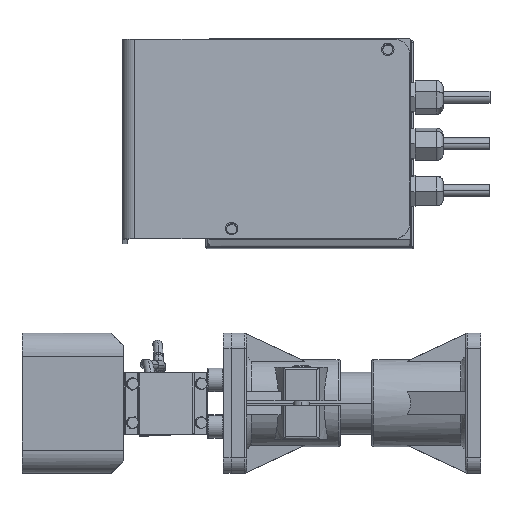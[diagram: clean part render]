
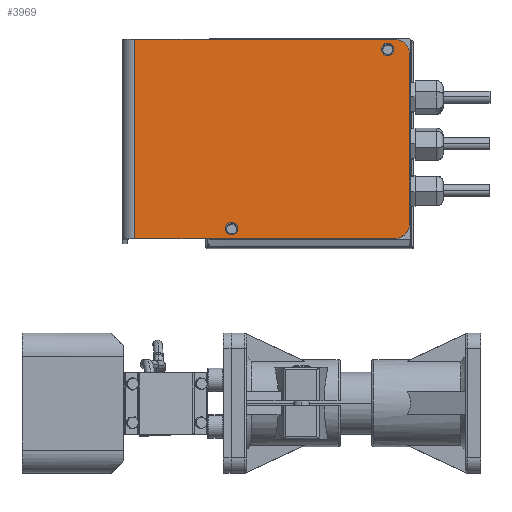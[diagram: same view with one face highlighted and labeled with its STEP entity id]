
A CAD part, left-side view. The second image highlights one B-rep face of the part: STEP entity #3969.
In plain terms, the highlighted planar face has unit normal (-0.999, 0, 0.042) as drawn and (0, 0, -1) by its records, which use the part's own axes.
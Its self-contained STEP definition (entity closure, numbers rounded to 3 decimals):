
#42 = CIRCLE ( 'NONE', #7114, 4. ) ;
#167 = DIRECTION ( 'NONE',  ( 0., 0., 1. ) ) ;
#2060 = DIRECTION ( 'NONE',  ( 0., 0., 1. ) ) ;
#2285 = CARTESIAN_POINT ( 'NONE',  ( -61.5, -78., -3. ) ) ;
#2490 = ORIENTED_EDGE ( 'NONE', *, *, #27201, .F. ) ;
#2627 = CIRCLE ( 'NONE', #23251, 10. ) ;
#2758 = EDGE_LOOP ( 'NONE', ( #25423, #35628, #2490, #36137, #34594, #35360 ) ) ;
#3145 = CARTESIAN_POINT ( 'NONE',  ( 61.5, 22., -3. ) ) ;
#3187 = VERTEX_POINT ( 'NONE', #19292 ) ;
#3898 = CARTESIAN_POINT ( 'NONE',  ( -54., -82., -3. ) ) ;
#3969 = ADVANCED_FACE ( 'NONE', ( #14086, #23594, #26838 ), #11081, .F. ) ;
#4466 = CARTESIAN_POINT ( 'NONE',  ( -64., 84., -3. ) ) ;
#5340 = EDGE_CURVE ( 'NONE', #31559, #37880, #5998, .T. ) ;
#5343 = AXIS2_PLACEMENT_3D ( 'NONE', #14158, #2060, #8314 ) ;
#5356 = CARTESIAN_POINT ( 'NONE',  ( 53.5, 22., -3. ) ) ;
#5556 = LINE ( 'NONE', #30390, #7428 ) ;
#5918 = DIRECTION ( 'NONE',  ( 0., 1., 0. ) ) ;
#5998 = CIRCLE ( 'NONE', #37641, 4. ) ;
#6114 = LINE ( 'NONE', #12387, #38431 ) ;
#6862 = LINE ( 'NONE', #37988, #28256 ) ;
#6995 = DIRECTION ( 'NONE',  ( 1., 0., 0. ) ) ;
#7114 = AXIS2_PLACEMENT_3D ( 'NONE', #10053, #22350, #6995 ) ;
#7428 = VECTOR ( 'NONE', #17863, 1000. ) ;
#7801 = VERTEX_POINT ( 'NONE', #31483 ) ;
#8123 = DIRECTION ( 'NONE',  ( 1., 0., 0. ) ) ;
#8314 = DIRECTION ( 'NONE',  ( 1., 0., 0. ) ) ;
#9150 = AXIS2_PLACEMENT_3D ( 'NONE', #29042, #20556, #38369 ) ;
#9955 = DIRECTION ( 'NONE',  ( 0., 0., -1. ) ) ;
#10053 = CARTESIAN_POINT ( 'NONE',  ( -57.5, -78., -3. ) ) ;
#10346 = ORIENTED_EDGE ( 'NONE', *, *, #15948, .T. ) ;
#10381 = EDGE_LOOP ( 'NONE', ( #18634, #14053 ) ) ;
#11081 = PLANE ( 'NONE',  #9150 ) ;
#12387 = CARTESIAN_POINT ( 'NONE',  ( 64., 92., -3. ) ) ;
#12661 = VECTOR ( 'NONE', #38432, 1000. ) ;
#12802 = DIRECTION ( 'NONE',  ( 1., 0., 0. ) ) ;
#13526 = EDGE_CURVE ( 'NONE', #37880, #31559, #33554, .T. ) ;
#13806 = EDGE_CURVE ( 'NONE', #3187, #21141, #42, .T. ) ;
#14053 = ORIENTED_EDGE ( 'NONE', *, *, #5340, .T. ) ;
#14086 = FACE_BOUND ( 'NONE', #10381, .T. ) ;
#14158 = CARTESIAN_POINT ( 'NONE',  ( -57.5, -78., -3. ) ) ;
#14368 = CARTESIAN_POINT ( 'NONE',  ( 57.5, 22., -3. ) ) ;
#14875 = CARTESIAN_POINT ( 'NONE',  ( 64., -82., -3. ) ) ;
#15948 = EDGE_CURVE ( 'NONE', #21141, #3187, #38898, .T. ) ;
#17401 = DIRECTION ( 'NONE',  ( 0., 0., 1. ) ) ;
#17863 = DIRECTION ( 'NONE',  ( 0., -1., 0. ) ) ;
#18634 = ORIENTED_EDGE ( 'NONE', *, *, #13526, .T. ) ;
#19292 = CARTESIAN_POINT ( 'NONE',  ( -53.5, -78., -3. ) ) ;
#19642 = EDGE_CURVE ( 'NONE', #27913, #23074, #6114, .T. ) ;
#20556 = DIRECTION ( 'NONE',  ( 0., 0., 1. ) ) ;
#20753 = VERTEX_POINT ( 'NONE', #24139 ) ;
#21141 = VERTEX_POINT ( 'NONE', #2285 ) ;
#22262 = DIRECTION ( 'NONE',  ( 1., 0., 0. ) ) ;
#22350 = DIRECTION ( 'NONE',  ( 0., 0., 1. ) ) ;
#22472 = ORIENTED_EDGE ( 'NONE', *, *, #13806, .T. ) ;
#22710 = CIRCLE ( 'NONE', #24653, 10. ) ;
#23074 = VERTEX_POINT ( 'NONE', #28979 ) ;
#23251 = AXIS2_PLACEMENT_3D ( 'NONE', #34012, #9955, #22262 ) ;
#23594 = FACE_BOUND ( 'NONE', #33701, .T. ) ;
#24139 = CARTESIAN_POINT ( 'NONE',  ( -54., -92., -3. ) ) ;
#24240 = CARTESIAN_POINT ( 'NONE',  ( -64., -82., -3. ) ) ;
#24503 = EDGE_CURVE ( 'NONE', #20753, #31954, #22710, .T. ) ;
#24610 = DIRECTION ( 'NONE',  ( 1., 0., 0. ) ) ;
#24653 = AXIS2_PLACEMENT_3D ( 'NONE', #3898, #27938, #12802 ) ;
#25423 = ORIENTED_EDGE ( 'NONE', *, *, #34945, .F. ) ;
#26074 = LINE ( 'NONE', #4466, #12661 ) ;
#26443 = AXIS2_PLACEMENT_3D ( 'NONE', #14368, #17401, #8123 ) ;
#26838 = FACE_OUTER_BOUND ( 'NONE', #2758, .T. ) ;
#27201 = EDGE_CURVE ( 'NONE', #32409, #31954, #5556, .T. ) ;
#27830 = CARTESIAN_POINT ( 'NONE',  ( 57.5, 22., -3. ) ) ;
#27913 = VERTEX_POINT ( 'NONE', #14875 ) ;
#27938 = DIRECTION ( 'NONE',  ( 0., 0., -1. ) ) ;
#28256 = VECTOR ( 'NONE', #31520, 1000. ) ;
#28979 = CARTESIAN_POINT ( 'NONE',  ( 64., 84., -3. ) ) ;
#29042 = CARTESIAN_POINT ( 'NONE',  ( 0., 0., -3. ) ) ;
#29209 = EDGE_CURVE ( 'NONE', #32409, #23074, #26074, .T. ) ;
#30390 = CARTESIAN_POINT ( 'NONE',  ( -64., 92., -3. ) ) ;
#31483 = CARTESIAN_POINT ( 'NONE',  ( 54., -92., -3. ) ) ;
#31520 = DIRECTION ( 'NONE',  ( 1., 0., 0. ) ) ;
#31559 = VERTEX_POINT ( 'NONE', #5356 ) ;
#31954 = VERTEX_POINT ( 'NONE', #24240 ) ;
#32409 = VERTEX_POINT ( 'NONE', #33891 ) ;
#33554 = CIRCLE ( 'NONE', #26443, 4. ) ;
#33701 = EDGE_LOOP ( 'NONE', ( #22472, #10346 ) ) ;
#33891 = CARTESIAN_POINT ( 'NONE',  ( -64., 84., -3. ) ) ;
#34012 = CARTESIAN_POINT ( 'NONE',  ( 54., -82., -3. ) ) ;
#34594 = ORIENTED_EDGE ( 'NONE', *, *, #19642, .F. ) ;
#34945 = EDGE_CURVE ( 'NONE', #20753, #7801, #6862, .T. ) ;
#35360 = ORIENTED_EDGE ( 'NONE', *, *, #37197, .T. ) ;
#35628 = ORIENTED_EDGE ( 'NONE', *, *, #24503, .T. ) ;
#36137 = ORIENTED_EDGE ( 'NONE', *, *, #29209, .T. ) ;
#37197 = EDGE_CURVE ( 'NONE', #27913, #7801, #2627, .T. ) ;
#37641 = AXIS2_PLACEMENT_3D ( 'NONE', #27830, #167, #24610 ) ;
#37880 = VERTEX_POINT ( 'NONE', #3145 ) ;
#37988 = CARTESIAN_POINT ( 'NONE',  ( -64., -92., -3. ) ) ;
#38369 = DIRECTION ( 'NONE',  ( 1., 0., 0. ) ) ;
#38431 = VECTOR ( 'NONE', #5918, 1000. ) ;
#38432 = DIRECTION ( 'NONE',  ( 1., 0., 0. ) ) ;
#38898 = CIRCLE ( 'NONE', #5343, 4. ) ;
